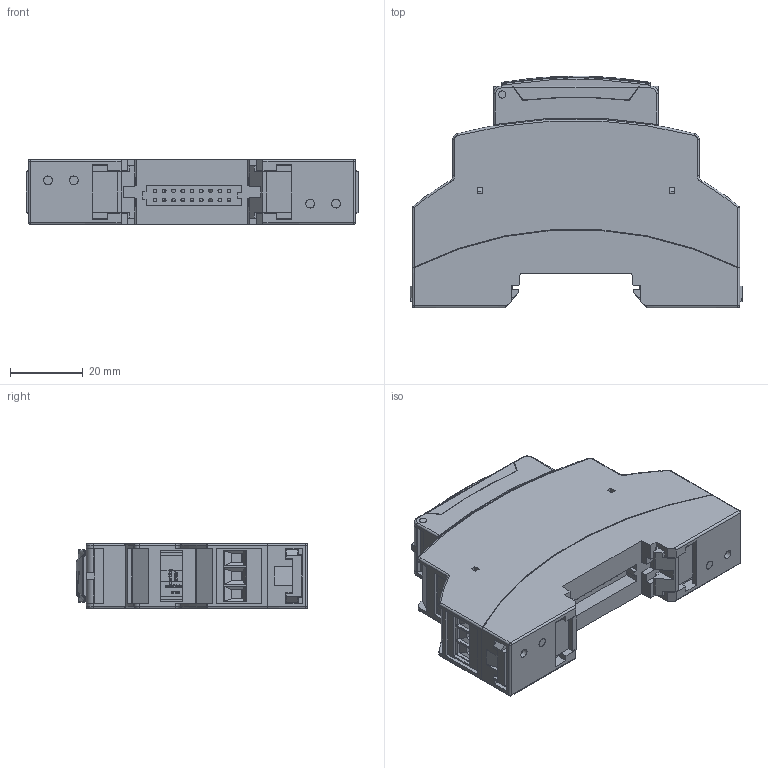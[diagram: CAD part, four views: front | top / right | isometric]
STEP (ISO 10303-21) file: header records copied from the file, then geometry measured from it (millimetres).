
FILE_DESCRIPTION(/* description */ (''),/* implementation_level */ '2;1');
FILE_NAME(/* name */ 'NET485_20181220_WEB.stp',/* time_stamp */ '2025-04-02T15:56:26+02:00',/* author */ ('ut3'),/* organization */ (''),/* preprocessor_version */ 'ST-DEVELOPER v20',/* originating_system */ 'Autodesk Inventor 2025',/* authorisation */ '');
FILE_SCHEMA (('AUTOMOTIVE_DESIGN { 1 0 10303 214 3 1 1 }'));
Products named in the file (1): NET485_20181220_Semplifica_1
Bounding box: 91 x 63.43 x 17.8 mm (x, y, z)
Volume: 35605.1 mm3; surface area: 44409.7 mm2
Topology: 2 solids, 2 shells, 1649 faces, 5460 edges, 3846 vertices
Faces by surface type: plane 1322, cylinder 236, bspline 57, torus 20, sphere 11, cone 3
Full cylindrical faces by diameter (mm): 0.508 x1, 1 x18, 1.397 x9, 2 x2, 2.4 x6, 3.8 x9, 4 x9, 4.064 x2
Entity records: 69307 total; most frequent: CARTESIAN_POINT 18673, ORIENTED_EDGE 10906, DIRECTION 9127, EDGE_CURVE 5453, LINE 4653, VECTOR 4653, VERTEX_POINT 3846, AXIS2_PLACEMENT_3D 2237
